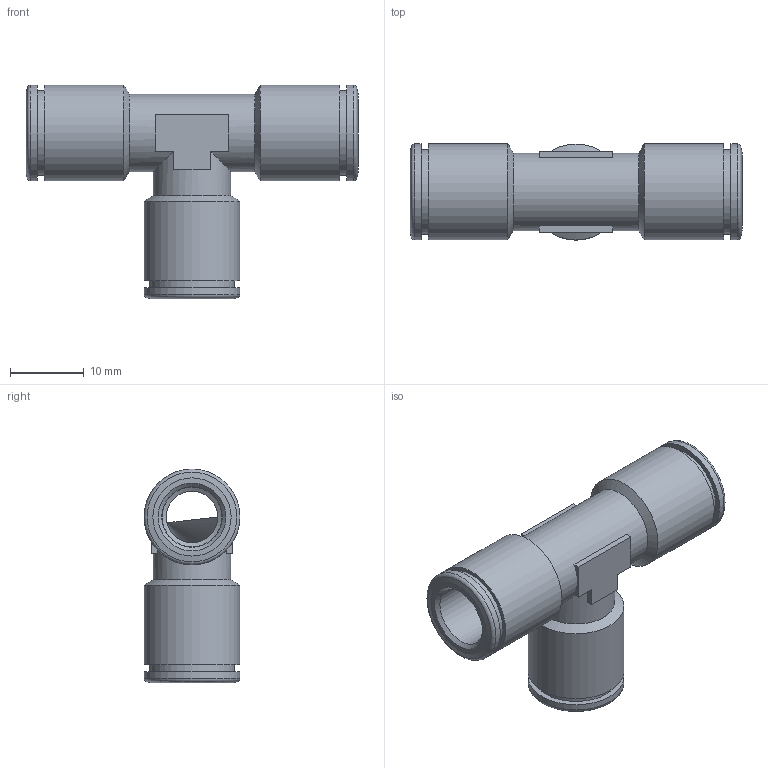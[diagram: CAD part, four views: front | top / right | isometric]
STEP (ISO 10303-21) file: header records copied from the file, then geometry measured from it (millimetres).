
FILE_DESCRIPTION(/* description */ (''),/* implementation_level */ '2;1');
FILE_NAME(/* name */ '200504-ES-I1_STX_05_8_21.06.16',/* time_stamp */ '2016-06-21T12:23:47+02:00',/* author */ (''),/* organization */ (''),/* preprocessor_version */ 'ST-DEVELOPER v16.5',/* originating_system */ 'HiCAD 2016 2101.0 Build 254',/* authorisation */ '');
FILE_SCHEMA (('AUTOMOTIVE_DESIGN { 1 0 10303 214 1 1 1 1 }'));
Length unit declared in the file: millimetre
Products named in the file (5): Root; R290808-N1; DR8-1_NEU
Assembly tree (4 placements, depth 2):
  Root
    R290808-N1
    DR8-1_NEU
    DR8-1_NEU
    DR8-1_NEU
Bounding box: 45 x 13 x 29 mm (x, y, z)
Volume: 3309.4 mm3; surface area: 6150.5 mm2
Topology: 4 solids, 4 shells, 91 faces, 188 edges, 110 vertices
Faces by surface type: plane 33, cylinder 28, cone 27, torus 3
Full cylindrical faces by diameter (mm): 7 x2, 8.1 x3, 8.2 x3, 10.1 x3, 10.5 x2, 11 x3, 11.5 x3, 11.6 x3, 13 x6
Entity records: 3405 total; most frequent: DIRECTION 404, CARTESIAN_POINT 329, PRESENTATION_STYLE_ASSIGNMENT 252, COLOUR_RGB 249, DRAUGHTING_PRE_DEFINED_CURVE_FONT 248, CURVE_STYLE 248, OVER_RIDING_STYLED_ITEM 248, ORIENTED_EDGE 248
